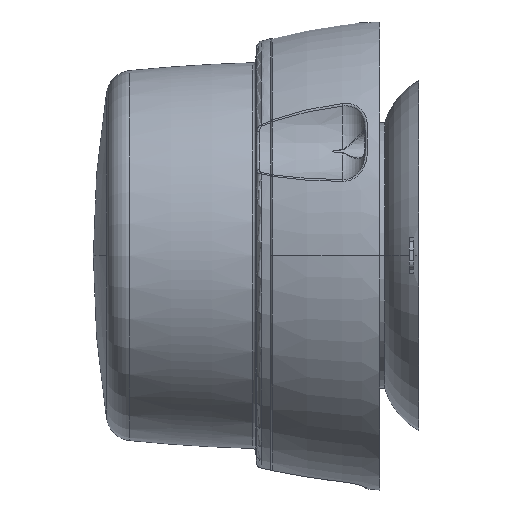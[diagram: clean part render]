
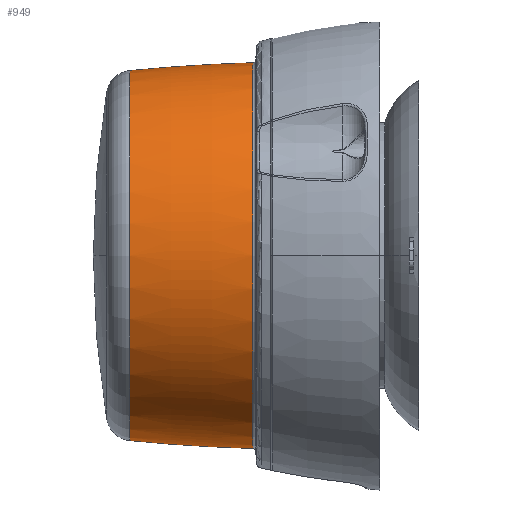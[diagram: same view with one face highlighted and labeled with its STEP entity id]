
A CAD part, left-side view. The second image highlights one B-rep face of the part: STEP entity #949.
In plain terms, the highlighted toroidal (fillet/blend) face has major radius 533.287 mm and minor radius 600 mm.
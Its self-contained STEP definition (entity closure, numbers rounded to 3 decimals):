
#949 = ADVANCED_FACE ( 'NONE', ( #20144 ), #26638, .T. ) ;
#1657 = DIRECTION ( 'NONE',  ( -1., 0., 0. ) ) ;
#2577 = ORIENTED_EDGE ( 'NONE', *, *, #23178, .T. ) ;
#3401 = DIRECTION ( 'NONE',  ( 0., 0., -1. ) ) ;
#3619 = DIRECTION ( 'NONE',  ( 0., -1., 0. ) ) ;
#3762 = DIRECTION ( 'NONE',  ( 0., 1., 0. ) ) ;
#3977 = DIRECTION ( 'NONE',  ( 1., 0., 0. ) ) ;
#4207 = CARTESIAN_POINT ( 'NONE',  ( 0., 46.183, 63.768 ) ) ;
#5841 = CARTESIAN_POINT ( 'NONE',  ( 0., -13.197, 0. ) ) ;
#6543 = EDGE_LOOP ( 'NONE', ( #26331, #18821, #14659, #2577 ) ) ;
#6785 = VERTEX_POINT ( 'NONE', #30558 ) ;
#7231 = VERTEX_POINT ( 'NONE', #4207 ) ;
#7268 = CARTESIAN_POINT ( 'NONE',  ( 0., 3.71, -66.475 ) ) ;
#10313 = AXIS2_PLACEMENT_3D ( 'NONE', #18240, #3762, #20630 ) ;
#10850 = CARTESIAN_POINT ( 'NONE',  ( 0., 46.183, 0. ) ) ;
#13293 = DIRECTION ( 'NONE',  ( 0., 0., -1. ) ) ;
#14081 = CIRCLE ( 'NONE', #29817, 63.768 ) ;
#14659 = ORIENTED_EDGE ( 'NONE', *, *, #23266, .T. ) ;
#15015 = VERTEX_POINT ( 'NONE', #21491 ) ;
#16070 = CIRCLE ( 'NONE', #18000, 600. ) ;
#16155 = CARTESIAN_POINT ( 'NONE',  ( 0., -13.197, 533.287 ) ) ;
#18000 = AXIS2_PLACEMENT_3D ( 'NONE', #16155, #1657, #18556 ) ;
#18240 = CARTESIAN_POINT ( 'NONE',  ( 0., 3.71, 0. ) ) ;
#18309 = CIRCLE ( 'NONE', #10313, 66.475 ) ;
#18452 = CARTESIAN_POINT ( 'NONE',  ( 0., -13.197, -533.287 ) ) ;
#18556 = DIRECTION ( 'NONE',  ( 0., 0., 1. ) ) ;
#18821 = ORIENTED_EDGE ( 'NONE', *, *, #26598, .T. ) ;
#20144 = FACE_OUTER_BOUND ( 'NONE', #6543, .T. ) ;
#20630 = DIRECTION ( 'NONE',  ( 0., 0., -1. ) ) ;
#20836 = DIRECTION ( 'NONE',  ( 0., 0., -1. ) ) ;
#21491 = CARTESIAN_POINT ( 'NONE',  ( 0., 46.183, -63.768 ) ) ;
#23178 = EDGE_CURVE ( 'NONE', #27802, #6785, #18309, .T. ) ;
#23258 = EDGE_CURVE ( 'NONE', #7231, #6785, #28130, .T. ) ;
#23266 = EDGE_CURVE ( 'NONE', #15015, #27802, #16070, .T. ) ;
#24817 = AXIS2_PLACEMENT_3D ( 'NONE', #5841, #3619, #3401 ) ;
#26331 = ORIENTED_EDGE ( 'NONE', *, *, #23258, .F. ) ;
#26598 = EDGE_CURVE ( 'NONE', #7231, #15015, #14081, .T. ) ;
#26638 = TOROIDAL_SURFACE ( 'NONE', #24817, -533.287, 600. ) ;
#27737 = DIRECTION ( 'NONE',  ( 0., -1., 0. ) ) ;
#27802 = VERTEX_POINT ( 'NONE', #7268 ) ;
#28130 = CIRCLE ( 'NONE', #28269, 600. ) ;
#28269 = AXIS2_PLACEMENT_3D ( 'NONE', #18452, #3977, #20836 ) ;
#29817 = AXIS2_PLACEMENT_3D ( 'NONE', #10850, #27737, #13293 ) ;
#30558 = CARTESIAN_POINT ( 'NONE',  ( 0., 3.71, 66.475 ) ) ;
